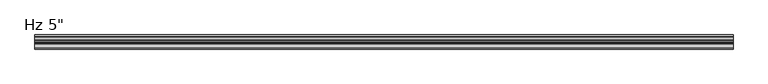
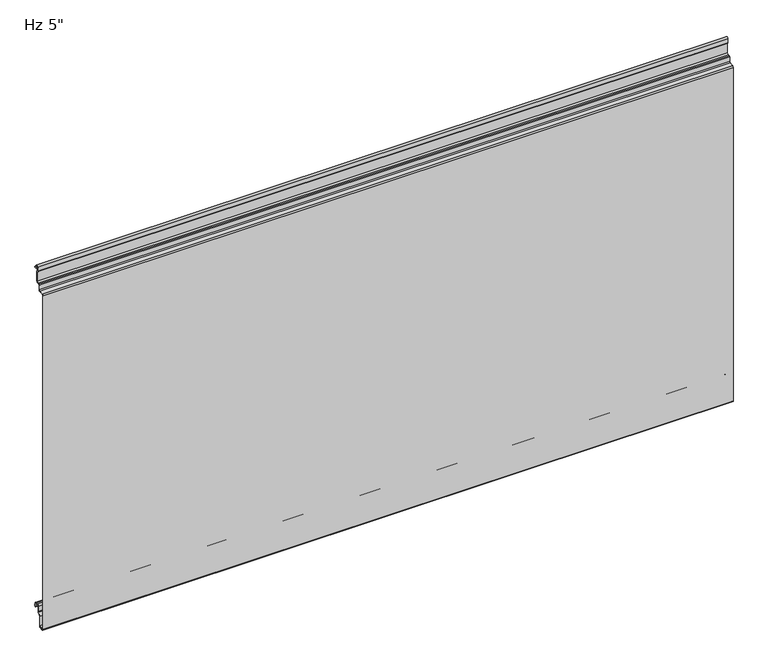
"""IFC4 building model written with IfcOpenShell, lengths in millimetres: plate geometry."""

from ifc_helpers import new_model, si_unit, point, frame, frame_2d, origin, place, context, project, spatial, polyline, circle_curve, trimmed, segment, composite_curve, outline, extrude, source, transform, mapped, element, save


def plate_0a305b09(model_context):
    return source(origin(), model_context, "Body", "SweptSolid", [
        extrude(outline(composite_curve([segment(trimmed(circle_curve(frame_2d((-123.4296795, -32.4521105)), 3.5702393), [point((-123.1184091, -36.0087549))], [point((-126.9999188, -32.4521083))], False, "CARTESIAN"), True, "CONTINUOUS"), segment(polyline([(-126.9999188, -32.4521083), (-126.9994418, 713.5384307)]), True, "CONTINUOUS"), segment(trimmed(circle_curve(frame_2d((-124.0494477, 713.5384288)), 2.9499941), [point((-126.9994418, 713.5384307))], [point((-124.3065566, 716.4771973))], False, "CARTESIAN"), True, "CONTINUOUS"), segment(polyline([(-124.3065566, 716.4771973), (-115.842179, 717.2177344)]), True, "CONTINUOUS"), segment(trimmed(circle_curve(frame_2d((-116.0191048, 719.2400056)), 2.0299959), [point((-115.842179, 717.2177344))], [point((-113.9917189, 719.3429135))], True, "CARTESIAN"), True, "CONTINUOUS"), segment(polyline([(-113.9917189, 719.3429135), (-113.9917189, 729.458279)]), True, "CONTINUOUS"), segment(trimmed(circle_curve(frame_2d((-112.0425659, 729.4595944)), 1.9491534), [point((-113.9917189, 729.458279))], [point((-112.0425659, 731.4087478))], False, "CARTESIAN"), True, "CONTINUOUS"), segment(polyline([(-112.0425659, 731.4087478), (-108.9011658, 731.4087475)]), True, "CONTINUOUS"), segment(trimmed(circle_curve(frame_2d((-108.9011658, 734.4087415)), 2.999994), [point((-108.9011658, 731.4087475))], [point((-105.9011718, 734.4087415))], True, "CARTESIAN"), True, "CONTINUOUS"), segment(polyline([(-105.9011718, 734.4087415), (-105.9011718, 755.0122013), (-107.1470159, 755.7314897)]), True, "CONTINUOUS"), segment(trimmed(circle_curve(frame_2d((-106.4220173, 756.987224)), 1.4499971), [point((-107.1470159, 755.7314897))], [point((-107.8712455, 757.0344401))], False, "CARTESIAN"), True, "CONTINUOUS"), segment(polyline([(-107.8712455, 757.0344401), (-107.5263372, 765.7463704)]), True, "CONTINUOUS"), segment(trimmed(circle_curve(frame_2d((-104.4268913, 765.6236622)), 3.1018739), [point((-107.5263372, 765.7463704))], [point((-101.3277704, 765.7543204))], False, "CARTESIAN"), True, "CONTINUOUS"), segment(polyline([(-101.3277704, 765.7543204), (-101.0839836, 761.7587)]), True, "CONTINUOUS"), segment(trimmed(circle_curve(frame_2d((-100.2437539, 761.8099653)), 0.8417922), [point((-101.0839836, 761.7587))], [point((-100.2732011, 760.9686884))], True, "CARTESIAN"), True, "CONTINUOUS"), segment(polyline([(-100.2732011, 760.9686884), (-97.5027683, 760.9686884), (-97.5027683, 759.9686884), (-100.2873149, 759.9686884)]), True, "CONTINUOUS"), segment(trimmed(circle_curve(frame_2d((-100.2437539, 761.8099653)), 1.8417922), [point((-100.2873149, 759.9686884))], [point((-102.0821274, 761.6977997))], False, "CARTESIAN"), True, "CONTINUOUS"), segment(polyline([(-102.0821274, 761.6977997), (-102.3265424, 765.7037148)]), True, "CONTINUOUS"), segment(trimmed(circle_curve(frame_2d((-104.4268913, 765.6236622)), 2.1018739), [point((-102.3265424, 765.7037148))], [point((-106.5271199, 765.706811))], True, "CARTESIAN"), True, "CONTINUOUS"), segment(polyline([(-106.5271199, 765.706811), (-106.8823803, 756.7334028), (-104.9011718, 755.5895515), (-104.9011718, 734.4087415)]), True, "CONTINUOUS"), segment(trimmed(circle_curve(frame_2d((-108.9011658, 734.4087415)), 3.999994), [point((-104.9011718, 734.4087415))], [point((-108.9011658, 730.4087475))], False, "CARTESIAN"), True, "CONTINUOUS"), segment(polyline([(-108.9011658, 730.4087475), (-112.0425659, 730.4087475)]), True, "CONTINUOUS"), segment(trimmed(circle_curve(frame_2d((-112.0425659, 729.4595944)), 0.9491534), [point((-112.0425659, 730.4087475))], [point((-112.9917189, 729.4586765))], True, "CARTESIAN"), True, "CONTINUOUS"), segment(polyline([(-112.9917189, 729.4586765), (-112.9917189, 719.3657441)]), True, "CONTINUOUS"), segment(trimmed(circle_curve(frame_2d((-116.0191048, 719.2400056)), 3.0299959), [point((-112.9917189, 719.3657441))], [point((-115.7550232, 716.2215397))], False, "CARTESIAN"), True, "CONTINUOUS"), segment(polyline([(-115.7550232, 716.2215397), (-124.2193197, 715.4810097)]), True, "CONTINUOUS"), segment(trimmed(circle_curve(frame_2d((-124.0493665, 713.5384359)), 1.9499941), [point((-124.2193197, 715.4810097))], [point((-125.9993606, 713.5384359))], True, "CARTESIAN"), True, "CONTINUOUS"), segment(polyline([(-125.9993606, 713.5384359), (-125.9993606, -32.509446)]), True, "CONTINUOUS"), segment(trimmed(circle_curve(frame_2d((-123.4297607, -32.4521176)), 2.5702393), [point((-125.9993606, -32.509446))], [point((-123.2056751, -35.0125699))], True, "CARTESIAN"), True, "CONTINUOUS"), segment(polyline([(-123.2056751, -35.0125699), (-118.2238542, -34.5765709)]), True, "CONTINUOUS"), segment(trimmed(circle_curve(frame_2d((-118.7052448, -31.9198392)), 2.6999926), [point((-118.2238542, -34.5765709))], [point((-116.0052522, -31.9198392))], True, "CARTESIAN"), True, "CONTINUOUS"), segment(polyline([(-116.0052522, -31.9198392), (-116.0052522, -9.8247096), (-110.5031811, -4.3226385)]), True, "CONTINUOUS"), segment(trimmed(circle_curve(frame_2d((-111.7052588, -3.1205608)), 1.6999946), [point((-110.5031811, -4.3226385))], [point((-110.0052642, -3.1205608))], True, "CARTESIAN"), True, "CONTINUOUS"), segment(polyline([(-110.0052642, -3.1205608), (-110.0052642, 8.6903283)]), True, "CONTINUOUS"), segment(trimmed(circle_curve(frame_2d((-106.6552689, 8.6903283)), 3.3499953), [point((-110.0052642, 8.6903283))], [point((-106.6552689, 12.0403236))], False, "CARTESIAN"), True, "CONTINUOUS"), segment(polyline([(-106.6552689, 12.0403236), (-102.2552777, 12.0403236)]), True, "CONTINUOUS"), segment(trimmed(circle_curve(frame_2d((-102.2552777, 8.6903283)), 3.3499953), [point((-102.2552777, 12.0403236))], [point((-98.9052824, 8.6903283))], False, "CARTESIAN"), True, "CONTINUOUS"), segment(polyline([(-98.9052824, 8.6903283), (-98.9052824, 5.9912173), (-97.5068035, 5.9912173), (-97.5068035, 2.2328239)]), True, "CONTINUOUS"), segment(trimmed(circle_curve(frame_2d((-98.7068002, 2.2313092)), 1.1999976), [point((-97.5068035, 2.2328239))], [point((-98.6762782, 1.0316999))], False, "CARTESIAN"), True, "CONTINUOUS"), segment(trimmed(circle_curve(frame_2d((-98.7068002, 2.2313092)), 1.1999976), [point((-98.6762782, 1.0316999))], [point((-99.9052824, 2.1710221))], False, "CARTESIAN"), True, "CONTINUOUS"), segment(polyline([(-99.9052824, 2.1710221), (-99.9052824, 8.6903283)]), True, "CONTINUOUS"), segment(trimmed(circle_curve(frame_2d((-102.2552777, 8.6903283)), 2.3499953), [point((-99.9052824, 8.6903283))], [point((-102.2552777, 11.0403236))], True, "CARTESIAN"), True, "CONTINUOUS"), segment(polyline([(-102.2552777, 11.0403236), (-106.6552689, 11.0403236)]), True, "CONTINUOUS"), segment(trimmed(circle_curve(frame_2d((-106.6552689, 8.6903283)), 2.3499953), [point((-106.6552689, 11.0403236))], [point((-109.0052642, 8.6903283))], True, "CARTESIAN"), True, "CONTINUOUS"), segment(polyline([(-109.0052642, 8.6903283), (-109.0052642, -3.1205608)]), True, "CONTINUOUS"), segment(trimmed(circle_curve(frame_2d((-111.7052588, -3.1205608)), 2.6999946), [point((-109.0052642, -3.1205608))], [point((-109.7960743, -5.0297453))], False, "CARTESIAN"), True, "CONTINUOUS"), segment(polyline([(-109.7960743, -5.0297453), (-114.6244918, -9.8581627)]), True, "CONTINUOUS"), segment(trimmed(circle_curve(frame_2d((-113.7052548, -10.7773997)), 1.2999974), [point((-114.6244918, -9.8581627))], [point((-115.0052522, -10.7773997))], True, "CARTESIAN"), True, "CONTINUOUS"), segment(polyline([(-115.0052522, -10.7773997), (-115.0052522, -31.9198392)]), True, "CONTINUOUS"), segment(trimmed(circle_curve(frame_2d((-118.7052448, -31.9198392)), 3.6999926), [point((-115.0052522, -31.9198392))], [point((-118.0944437, -35.5690675))], False, "CARTESIAN"), True, "CONTINUOUS"), segment(polyline([(-118.0944437, -35.5690675), (-123.1184091, -36.0087549)]), True, "CONTINUOUS")], self_intersect=False)), frame((-730.0, 0.0, 0.0), z_axis=(1.0, 0.0, 0.0), x_axis=(0.0, 1.0, 0.0)), (0.0, 0.0, 1.0), 1460.0),
    ])


if __name__ == "__main__":
    model = new_model("IFC4")
    model_context = context("Model", 3, world=origin())
    ifc_project = project(units=[si_unit("LENGTHUNIT", "METRE", prefix="MILLI")], contexts=[model_context])
    site = spatial("IfcSite", under=ifc_project)
    building = spatial("IfcBuilding", under=site)
    placement = place(None, origin())
    plate_shape = plate_0a305b09(model_context)
    element("IfcPlate", 1, ObjectType="KIP-30-Karrier-KP-R19-CP-Hz-FL3-8in_SL : Hz 5\"", at=placement, inside=building, context=model_context, shape_type="MappedRepresentation", body=[
        mapped(plate_shape, transform((0.0, 0.0, 0.0), x_axis=(1.0, 0.0, 0.0), y_axis=(0.0, 1.0, 0.0), z_axis=(0.0, 0.0, 1.0))),
    ])
    save(model, "model.ifc")
